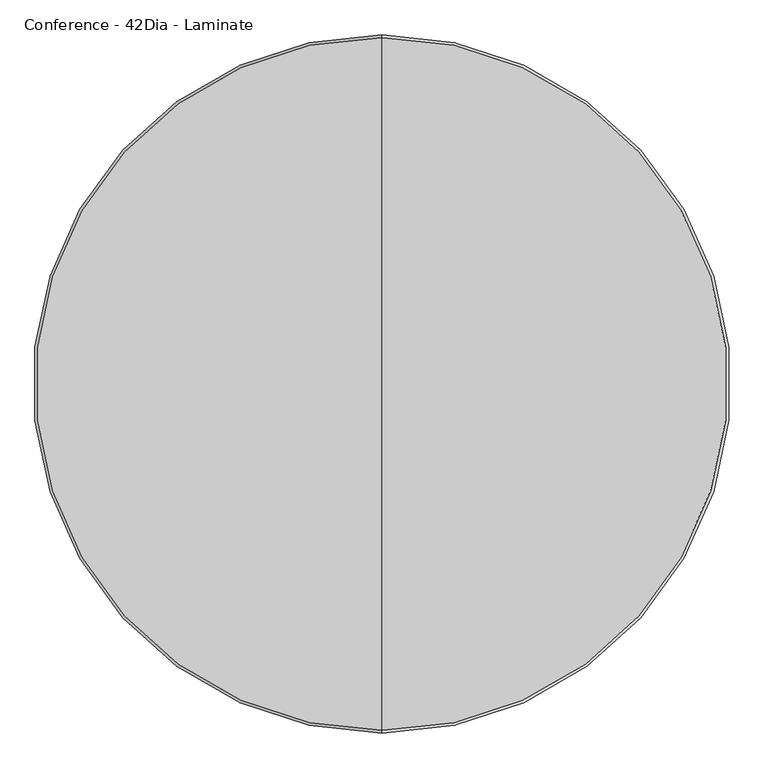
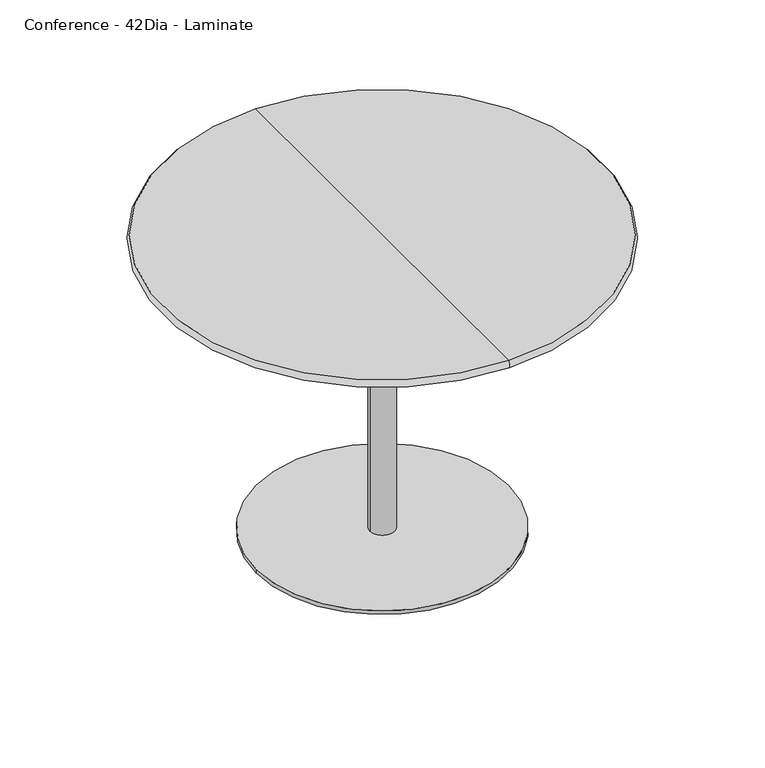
"""IFC4 building model written with IfcOpenShell, lengths in millimetres: furniture geometry, Steelcase Coalesse - Enea - Table - Single Base : Conference - 42Dia - Laminate."""

from ifc_helpers import new_model, si_unit, point, frame, frame_2d, origin, origin_with_axes, place, context, project, spatial, circle_curve, ellipse_curve, trimmed, segment, composite_curve, outline, extrude, source, transform, mapped, element, save
from ifc_brep_helpers import plane_surface, revolved_surface, advanced_brep


def conference_42dia_laminate_6cbbf40b(model_context):
    return source(origin(), model_context, "Body", "SolidModel", [
        extrude(outline(composite_curve([segment(trimmed(circle_curve(frame_2d((537.718, -284.0746893)), 25.4), [point((512.318, -284.0746893))], [point((563.118, -284.0746893))], False, "CARTESIAN"), True, "CONTINUOUS"), segment(trimmed(circle_curve(frame_2d((537.718, -284.0746893)), 25.4), [point((563.118, -284.0746893))], [point((512.318, -284.0746893))], False, "CARTESIAN"), True, "CONTINUOUS")], self_intersect=False)), origin_with_axes(), (0.0, 0.0, 1.0), 6.35),
        extrude(outline(composite_curve([segment(trimmed(circle_curve(frame_2d((791.3613107, -537.3772238)), 25.4), [point((765.9613107, -537.3772238))], [point((816.7613107, -537.3772238))], False, "CARTESIAN"), True, "CONTINUOUS"), segment(trimmed(circle_curve(frame_2d((791.3613107, -537.3772238)), 25.4), [point((816.7613107, -537.3772238))], [point((765.9613107, -537.3772238))], False, "CARTESIAN"), True, "CONTINUOUS")], self_intersect=False)), origin_with_axes(), (0.0, 0.0, 1.0), 6.35),
        extrude(outline(composite_curve([segment(trimmed(circle_curve(frame_2d((284.0746893, -537.3772238)), 25.4), [point((258.6746893, -537.3772238))], [point((309.4746893, -537.3772238))], False, "CARTESIAN"), True, "CONTINUOUS"), segment(trimmed(circle_curve(frame_2d((284.0746893, -537.3772238)), 25.4), [point((309.4746893, -537.3772238))], [point((258.6746893, -537.3772238))], False, "CARTESIAN"), True, "CONTINUOUS")], self_intersect=False)), origin_with_axes(), (0.0, 0.0, 1.0), 6.35),
        extrude(outline(composite_curve([segment(trimmed(circle_curve(frame_2d((537.718, -790.6797584)), 25.4), [point((512.318, -790.6797584))], [point((563.118, -790.6797584))], False, "CARTESIAN"), True, "CONTINUOUS"), segment(trimmed(circle_curve(frame_2d((537.718, -790.6797584)), 25.4), [point((563.118, -790.6797584))], [point((512.318, -790.6797584))], False, "CARTESIAN"), True, "CONTINUOUS")], self_intersect=False)), origin_with_axes(), (0.0, 0.0, 1.0), 6.35),
        advanced_brep(
        [(537.718, -1066.8075871, 762.0), (537.718, -8.6284129, 762.0), (537.718, -537.718, 762.0), (537.718, -1066.8075871, 742.95), (537.718, -8.6284129, 742.95), (537.718, -537.718, 742.95)],
        [
            (0, 1, circle_curve(frame((537.718, -537.718, 762.0), z_axis=(0.0, 0.0, 1.0), x_axis=(0.0, 1.0, 0.0)), 529.0895871)),
            (1, 2),
            (2, 0),
            (1, 0, circle_curve(frame((537.718, -537.718, 762.0), z_axis=(0.0, 0.0, 1.0), x_axis=(0.0, 1.0, 0.0)), 529.0895871)),
            (3, 4, circle_curve(frame((537.718, -537.718, 742.95), z_axis=(0.0, 0.0, 1.0), x_axis=(0.0, 1.0, 0.0)), 529.0895871)),
            (4, 1, circle_curve(frame((537.718, -16.9968446, 752.475), z_axis=(1.0, 0.0, 0.0), x_axis=(0.0, -1.0, 0.0)), 12.6789697)),
            (0, 3, circle_curve(frame((537.718, -1058.4391554, 752.475), z_axis=(1.0, 0.0, 0.0), x_axis=(0.0, 1.0, 0.0)), 12.6789697)),
            (4, 3, circle_curve(frame((537.718, -537.718, 742.95), z_axis=(0.0, 0.0, 1.0), x_axis=(0.0, 1.0, 0.0)), 529.0895871)),
            (5, 4),
            (3, 5),
        ],
        [
            plane_surface(frame((537.718, -537.718, 762.0), z_axis=(0.0, 0.0, 1.0), x_axis=(0.0, 1.0, 0.0))),
            revolved_surface(trimmed(ellipse_curve(frame((537.718, -16.9968446, 752.475), z_axis=(-1.0, 0.0, 0.0), x_axis=(0.0, -1.0, 0.0)), 12.6789697, 12.6789697), [point((537.718, -8.6284129, 762.0))], [point((537.718, -8.6284129, 742.95))], True, "CARTESIAN"), (537.718, -537.718, 803.5678651), (0.0, 0.0, -1.0)),
            plane_surface(frame((537.718, -537.718, 742.95), z_axis=(0.0, 0.0, -1.0), x_axis=(0.0, 1.0, 0.0))),
        ],
        [
            (0, [[1, 2, 3]]),
            (0, [[4, -3, -2]]),
            (1, [[5, 6, -1, 7]]),
            (1, [[8, -7, -4, -6]]),
            (2, [[9, -5, 10]]),
            (2, [[-10, -8, -9]]),
        ],
    ),
        extrude(outline(composite_curve([segment(trimmed(circle_curve(frame_2d((537.718, -537.718)), 304.8), [point((842.518, -537.718))], [point((232.918, -537.718))], False, "CARTESIAN"), True, "CONTINUOUS"), segment(trimmed(circle_curve(frame_2d((537.718, -537.718)), 304.8), [point((232.918, -537.718))], [point((842.518, -537.718))], False, "CARTESIAN"), True, "CONTINUOUS")], self_intersect=False)), frame((0.0, 0.0, 6.35), z_axis=(0.0, 0.0, 1.0), x_axis=(1.0, 0.0, 0.0)), (0.0, 0.0, 1.0), 9.525),
        extrude(outline(composite_curve([segment(trimmed(circle_curve(frame_2d((537.7182907, -537.7179273)), 30.0214725), [point((567.7397632, -537.7179273))], [point((507.6968182, -537.7179273))], False, "CARTESIAN"), True, "CONTINUOUS"), segment(trimmed(circle_curve(frame_2d((537.7182907, -537.7179273)), 30.0214725), [point((507.6968182, -537.7179273))], [point((567.7397632, -537.7179273))], False, "CARTESIAN"), True, "CONTINUOUS")], self_intersect=False)), frame((0.0, 0.0, 15.875), z_axis=(0.0, 0.0, 1.0), x_axis=(1.0, 0.0, 0.0)), (0.0, 0.0, 1.0), 727.075),
    ])


if __name__ == "__main__":
    model = new_model("IFC4")
    model_context = context("Model", 3, world=origin())
    ifc_project = project(units=[si_unit("LENGTHUNIT", "METRE", prefix="MILLI")], contexts=[model_context])
    site = spatial("IfcSite", under=ifc_project)
    building = spatial("IfcBuilding", under=site)
    placement = place(None, origin())
    conference_42dia_laminate_shape = conference_42dia_laminate_6cbbf40b(model_context)
    element("IfcFurniture", 1, ObjectType="Steelcase Coalesse - Enea - Table - Single Base : Conference - 42Dia - Laminate", at=placement, inside=building, context=model_context, shape_type="MappedRepresentation", body=[
        mapped(conference_42dia_laminate_shape, transform((0.0, 0.0, 0.0), x_axis=(1.0, 0.0, 0.0), y_axis=(0.0, 1.0, 0.0), z_axis=(0.0, 0.0, 1.0))),
    ])
    save(model, "model.ifc")
